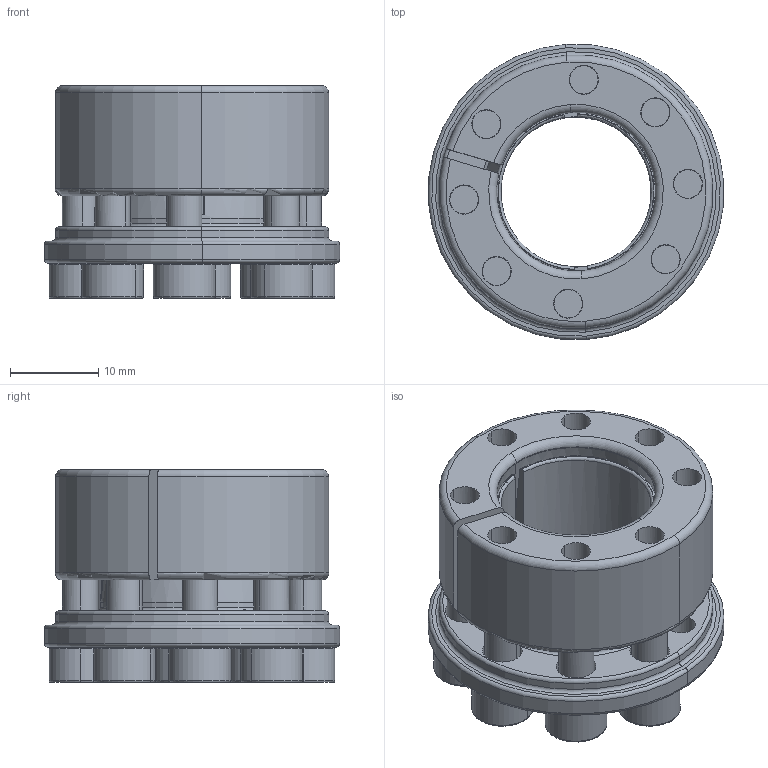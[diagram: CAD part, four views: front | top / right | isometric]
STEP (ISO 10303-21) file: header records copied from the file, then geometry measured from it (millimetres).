
FILE_DESCRIPTION (( 'STEP AP203' ), '1' );
FILE_NAME ('SAPL-A-17-31.STEP', '2013-07-22T06:10:05', ( 'MYCOM' ), ( '' ), 'SwSTEP 2.0', 'SolidWorks 2012', '' );
FILE_SCHEMA (( 'CONFIG_CONTROL_DESIGN' ));
Length unit declared in the file: millimetre
Products named in the file (1): SAPL-A-17-31
Bounding box: 33.42 x 33.42 x 24.1 mm (x, y, z)
Volume: 10160.6 mm3; surface area: 7585.6 mm2
Topology: 1 solids, 1 shells, 379 faces, 954 edges, 574 vertices
Faces by surface type: plane 143, cylinder 95, torus 79, cone 62
Entity records: 11680 total; most frequent: CARTESIAN_POINT 2301, DIRECTION 2133, ORIENTED_EDGE 1876, EDGE_CURVE 938, AXIS2_PLACEMENT_3D 888, VERTEX_POINT 574, CIRCLE 508, EDGE_LOOP 418
